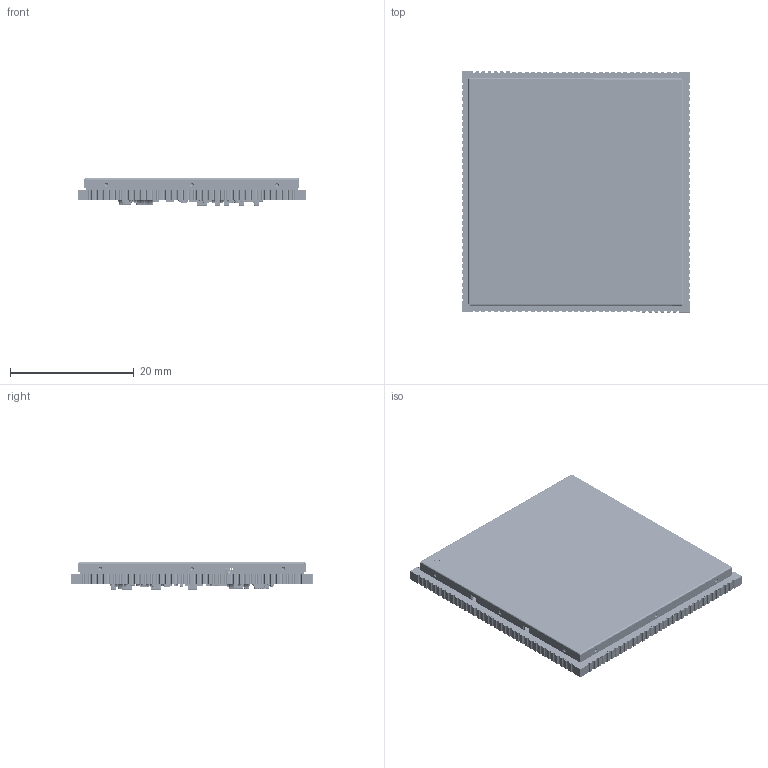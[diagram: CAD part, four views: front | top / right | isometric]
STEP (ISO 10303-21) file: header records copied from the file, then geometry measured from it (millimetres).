
FILE_DESCRIPTION((''),'2;1');
FILE_NAME('MYC-YRZFIVE-G2UL-V01_ASM','2023-03-07T09:01:20',('89233'),(''),'CREO PARAMETRIC BY PTC INC, 2022164','CREO PARAMETRIC BY PTC INC, 2022164','');
FILE_SCHEMA(('AUTOMOTIVE_DESIGN { 1 0 10303 214 1 1 1 1 }'));
Products named in the file (612): Y6ULX_18_2; MYC-37X39_LGA_ASM; 1_11_00_1; NONE_1; 100_1; C0201-1_1_ASM_1_ASM; C0201-1_ASM_1_ASM; C0201_ASM; CYLINDER_STEP_6; 858032240_STEP_ASM_6_ASM; EXTRUDED_3_STEP_6; 894460672_STEP_ASM_6_ASM; EXTRUDED_2_STEP_6; 858031856_STEP_ASM_6_ASM; CYLINDER_2_STEP_6; 857275360_STEP_ASM_6_ASM; EXTRUDED_STEP_6; 858032368_STEP_ASM_6_ASM; DESIGNATOR14_STEP_ASM_6_ASM; BOARD_STEP_6; WSON-8_6X8MM_STEP_ASM_6_ASM; WSON-8_6X8MM-1_ASM_6_ASM; WSON8-1_27-W_ASM_7_ASM; WSON8-1_27-W_ASM; SOLID_2_4; 3215_ASM_2_ASM_4_ASM; 3215_ASM; USER_LIBRARY-SOT-23-5_PIN_SOT_S; USER_LIBRARY-SOT-23-5_BODY_SOT2; USER_LIBRARY-SOT-23-5_ASM_2_ASM_ASM; SOT23-5_ASM_2_ASM_4_ASM; SOT23-5_ASM; NONE-20964_2_4; NONE-20965_2_4; NONE-20966_2_4; NONE-20967_2_4; NONE-20968_2_4; NONE-20969_2_4; NONE-20970_2_4; NONE-20971_2_4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
Assembly tree (852 placements, depth 10):
  MYC-YRZFIVE-G2UL-V01_ASM
    MYC-YRZFIVE-V01_ASM
      MYC_ASM
        MYC-37X39_LGA_ASM
          Y6ULX_18_2
        C0201_ASM  x59
          C0201-1_ASM_1_ASM
            C0201-1_1_ASM_1_ASM
              1_11_00_1
              NONE_1
              100_1
        WSON8-1_27-W_ASM
          WSON8-1_27-W_ASM_7_ASM
            WSON-8_6X8MM-1_ASM_6_ASM
              WSON-8_6X8MM_STEP_ASM_6_ASM
                DESIGNATOR14_STEP_ASM_6_ASM
                  858032240_STEP_ASM_6_ASM  x8
                  894460672_STEP_ASM_6_ASM
                  858031856_STEP_ASM_6_ASM  x8
                  857275360_STEP_ASM_6_ASM
                  858032368_STEP_ASM_6_ASM
                BOARD_STEP_6
        3215_ASM
          3215_ASM_2_ASM_4_ASM
            SOLID_2_4
        SOT23-5_ASM
          SOT23-5_ASM_2_ASM_4_ASM
            USER_LIBRARY-SOT-23-5_ASM_2_ASM_ASM
              USER_LIBRARY-SOT-23-5_PIN_SOT_S  x5
              USER_LIBRARY-SOT-23-5_BODY_SOT2
        BGA153_C010S_ASM
          BGA153_C010S_ASM_2_ASM_4_ASM
            BGA153_AF0_ASM_2_ASM_4_ASM
              NONE-20964_2_4
              NONE-20965_2_4
              NONE-20966_2_4
              NONE-20967_2_4
              NONE-20968_2_4
              NONE-20969_2_4
              NONE-20970_2_4
              NONE-20971_2_4
              NONE-20972_2_4
              NONE-20973_2_4
              NONE-20974_2_4
              NONE-20975_2_4
              NONE-20976_2_4
              NONE-20977_2_4
              NONE-20978_2_4
              NONE-20979_2_4
              NONE-20980_2_4
              NONE-20981_2_4
              NONE-20982_2_4
              NONE-20983_2_4
              NONE-20984_2_4
              NONE-20985_2_4
              NONE-20986_2_4
              NONE-20987_2_4
              NONE-20988_2_4
              NONE-20989_2_4
              NONE-20990_2_4
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Bounding box: 37 x 39.01 x 4.45 mm (x, y, z)
Volume: 3289.3 mm3; surface area: 9988.2 mm2
Topology: 1080 solids, 1110 shells, 18798 faces, 76432 edges, 70087 vertices
Faces by surface type: plane 10199, cylinder 3477, sphere 3006, bspline 1587, torus 442, extrusion 85, cone 2
Entity records: 514632 total; most frequent: CARTESIAN_POINT 72044, DIRECTION 69999, PRESENTATION_STYLE_ASSIGNMENT 32966, STYLED_ITEM 32526, CURVE_STYLE 31569, ORIENTED_EDGE 25792, VECTOR 22856, LINE 22813
